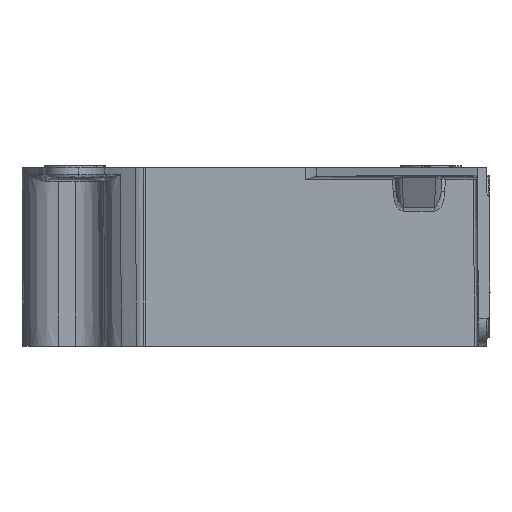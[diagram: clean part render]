
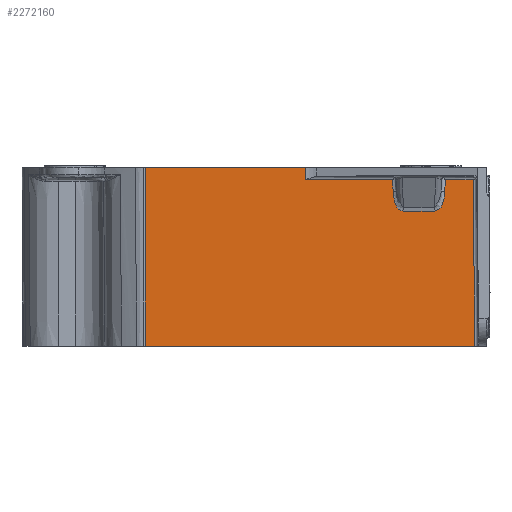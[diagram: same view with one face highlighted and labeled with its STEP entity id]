
A CAD part, left-side view. The second image highlights one B-rep face of the part: STEP entity #2272160.
In plain terms, the highlighted planar face has unit normal (-1, 0, 0).
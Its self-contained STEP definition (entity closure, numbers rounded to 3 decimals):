
#623060=CARTESIAN_POINT('',(-60.366,-116.308,
-572.016));
#623070=VERTEX_POINT('',#623060);
#623100=CARTESIAN_POINT('',(-60.366,-79.388,
-572.016));
#623110=DIRECTION('',(0.,1.,0.));
#623120=VECTOR('',#623110,1.);
#623130=LINE('',#623100,#623120);
#623140=CARTESIAN_POINT('',(-60.366,-70.202,
-572.016));
#623150=VERTEX_POINT('',#623140);
#623160=EDGE_CURVE('',#623070,#623150,#623130,.T.);
#891890=CARTESIAN_POINT('',(-60.366,-165.239,
-623.516));
#891900=VERTEX_POINT('',#891890);
#891930=CARTESIAN_POINT('',(-60.366,-165.239,
-623.516));
#891940=DIRECTION('',(0.,-0.009,
-1.));
#891950=VECTOR('',#891940,1.);
#891960=LINE('',#891930,#891950);
#891970=CARTESIAN_POINT('',(-60.366,-164.82,
-575.504));
#891980=VERTEX_POINT('',#891970);
#891990=EDGE_CURVE('',#891980,#891900,#891960,.T.);
#904000=CARTESIAN_POINT('',(-60.366,-141.708,
-578.827));
#904010=VERTEX_POINT('',#904000);
#904240=CARTESIAN_POINT('',(-60.366,-144.712,
-584.548));
#904250=VERTEX_POINT('',#904240);
#904280=CARTESIAN_POINT('',(-60.366,-141.708,
-578.827));
#904290=CARTESIAN_POINT('',(-60.366,-141.77,
-580.013));
#904300=CARTESIAN_POINT('',(-60.366,-141.908,
-581.395));
#904310=CARTESIAN_POINT('',(-60.366,-142.197,
-582.755));
#904320=CARTESIAN_POINT('',(-60.366,-142.711,
-583.878));
#904330=CARTESIAN_POINT('',(-60.366,-143.524,
-584.548));
#904340=CARTESIAN_POINT('',(-60.366,-144.712,
-584.548));
#904350=B_SPLINE_CURVE_WITH_KNOTS('',6,(#904280,#904290,#904300,#904310,
#904320,#904330,#904340),.UNSPECIFIED.,.F.,.F.,(7,7),(0.,1.),
.UNSPECIFIED.);
#904360=EDGE_CURVE('',#904010,#904250,#904350,.T.);
#904630=CARTESIAN_POINT('',(-60.366,-153.593,
-584.548));
#904640=VERTEX_POINT('',#904630);
#904670=CARTESIAN_POINT('',(-60.366,-79.388,
-584.548));
#904680=DIRECTION('',(0.,1.,0.));
#904690=VECTOR('',#904680,1.);
#904700=LINE('',#904670,#904690);
#904710=EDGE_CURVE('',#904640,#904250,#904700,.T.);
#906120=CARTESIAN_POINT('',(-60.366,-156.597,
-578.827));
#906130=VERTEX_POINT('',#906120);
#906160=CARTESIAN_POINT('',(-60.366,-153.593,
-584.548));
#906170=CARTESIAN_POINT('',(-60.366,-154.781,
-584.548));
#906180=CARTESIAN_POINT('',(-60.366,-155.594,
-583.878));
#906190=CARTESIAN_POINT('',(-60.366,-156.108,
-582.755));
#906200=CARTESIAN_POINT('',(-60.366,-156.397,
-581.395));
#906210=CARTESIAN_POINT('',(-60.366,-156.535,
-580.013));
#906220=CARTESIAN_POINT('',(-60.366,-156.597,
-578.827));
#906230=B_SPLINE_CURVE_WITH_KNOTS('',6,(#906160,#906170,#906180,#906190,
#906200,#906210,#906220),.UNSPECIFIED.,.F.,.F.,(7,7),(0.,1.),
.UNSPECIFIED.);
#906240=EDGE_CURVE('',#904640,#906130,#906230,.T.);
#908640=CARTESIAN_POINT('',(-60.366,-156.771,
-575.504));
#908650=VERTEX_POINT('',#908640);
#908680=CARTESIAN_POINT('',(-60.366,-154.255,
-623.516));
#908690=DIRECTION('',(0.,0.052,
-0.999));
#908700=VECTOR('',#908690,1.);
#908710=LINE('',#908680,#908700);
#908720=EDGE_CURVE('',#908650,#906130,#908710,.T.);
#912760=CARTESIAN_POINT('',(-60.366,-116.308,
-575.504));
#912770=VERTEX_POINT('',#912760);
#913030=CARTESIAN_POINT('',(-60.366,-141.534,
-575.504));
#913040=VERTEX_POINT('',#913030);
#913070=CARTESIAN_POINT('',(-60.366,-79.388,
-575.504));
#913080=DIRECTION('',(0.,1.,0.));
#913090=VECTOR('',#913080,1.);
#913100=LINE('',#913070,#913090);
#913110=EDGE_CURVE('',#913040,#912770,#913100,.T.);
#913220=CARTESIAN_POINT('',(-60.366,-144.05,
-623.516));
#913230=DIRECTION('',(0.,0.052,
0.999));
#913240=VECTOR('',#913230,1.);
#913250=LINE('',#913220,#913240);
#913260=EDGE_CURVE('',#904010,#913040,#913250,.T.);
#1335330=CARTESIAN_POINT('',(-60.366,-79.388,
-575.504));
#1335340=DIRECTION('',(0.,1.,0.));
#1335350=VECTOR('',#1335340,1.);
#1335360=LINE('',#1335330,#1335350);
#1335370=EDGE_CURVE('',#891980,#908650,#1335360,.T.);
#1337090=CARTESIAN_POINT('',(-60.366,-116.308,
-623.516));
#1337100=DIRECTION('',(0.,0.,1.));
#1337110=VECTOR('',#1337100,1.);
#1337120=LINE('',#1337090,#1337110);
#1337130=EDGE_CURVE('',#912770,#623070,#1337120,.T.);
#1344130=CARTESIAN_POINT('',(-60.366,-70.202,
-623.516));
#1344140=VERTEX_POINT('',#1344130);
#1344170=CARTESIAN_POINT('',(-60.366,-79.388,
-623.516));
#1344180=DIRECTION('',(0.,-1.,0.))
;
#1344190=VECTOR('',#1344180,1.);
#1344200=LINE('',#1344170,#1344190);
#1344210=EDGE_CURVE('',#1344140,#891900,#1344200,.T.);
#1491970=CARTESIAN_POINT('',(-60.366,-70.202,
-623.516));
#1491980=DIRECTION('',(0.,0.,1.));
#1491990=VECTOR('',#1491980,1.);
#1492000=LINE('',#1491970,#1491990);
#1492010=EDGE_CURVE('',#1344140,#623150,#1492000,.T.);
#2271970=CARTESIAN_POINT('',(-60.366,-48.629,
-623.516));
#2271980=DIRECTION('',(1.,0.,0.));
#2271990=DIRECTION('',(0.,1.,0.));
#2272000=AXIS2_PLACEMENT_3D('',#2271970,#2271980,#2271990);
#2272010=PLANE('',#2272000);
#2272020=ORIENTED_EDGE('',*,*,#891990,.F.);
#2272030=ORIENTED_EDGE('',*,*,#1344210,.T.);
#2272040=ORIENTED_EDGE('',*,*,#1492010,.F.);
#2272050=ORIENTED_EDGE('',*,*,#623160,.T.);
#2272060=ORIENTED_EDGE('',*,*,#1337130,.T.);
#2272070=ORIENTED_EDGE('',*,*,#913110,.T.);
#2272080=ORIENTED_EDGE('',*,*,#913260,.T.);
#2272090=ORIENTED_EDGE('',*,*,#904360,.F.);
#2272100=ORIENTED_EDGE('',*,*,#904710,.T.);
#2272110=ORIENTED_EDGE('',*,*,#906240,.F.);
#2272120=ORIENTED_EDGE('',*,*,#908720,.T.);
#2272130=ORIENTED_EDGE('',*,*,#1335370,.T.);
#2272140=EDGE_LOOP('',(#2272130,#2272120,#2272110,#2272100,#2272090,
#2272080,#2272070,#2272060,#2272050,#2272040,#2272030,#2272020));
#2272150=FACE_OUTER_BOUND('',#2272140,.T.);
#2272160=ADVANCED_FACE('',(#2272150),#2272010,.F.);
